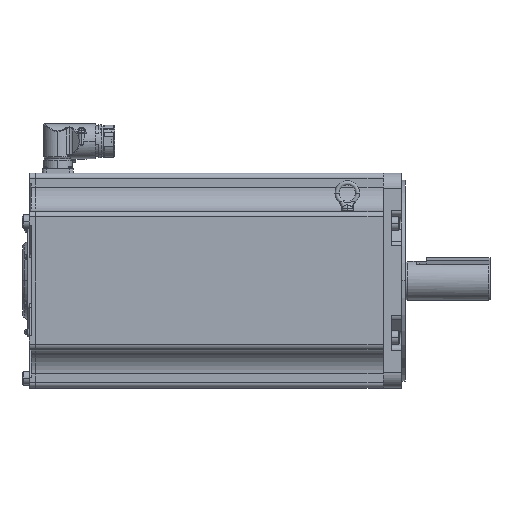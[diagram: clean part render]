
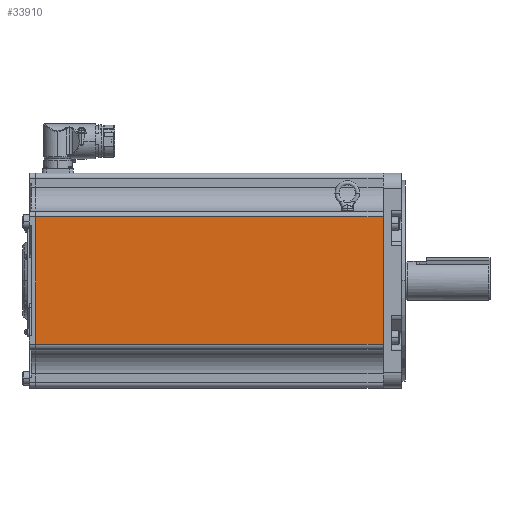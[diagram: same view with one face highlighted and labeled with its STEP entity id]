
A CAD part, top view. The second image highlights one B-rep face of the part: STEP entity #33910.
In plain terms, the highlighted planar face has unit normal (0, 0, 1) as drawn and (0, 0, -1) by its records, which use the part's own axes.
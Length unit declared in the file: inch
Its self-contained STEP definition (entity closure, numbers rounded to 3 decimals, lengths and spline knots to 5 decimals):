
#2699 = EDGE_CURVE ( 'NONE', #31902, #13747, #31284, .T. ) ;
#3012 = VECTOR ( 'NONE', #23709, 39.37008 ) ;
#3459 = CARTESIAN_POINT ( 'NONE',  ( -0.9, -3.125, -5.25 ) ) ;
#3982 = CARTESIAN_POINT ( 'NONE',  ( -0.9, 3.375, -5.25 ) ) ;
#5278 = FACE_OUTER_BOUND ( 'NONE', #21148, .T. ) ;
#6629 = VECTOR ( 'NONE', #35029, 39.37008 ) ;
#6835 = LINE ( 'NONE', #31119, #35988 ) ;
#7360 = AXIS2_PLACEMENT_3D ( 'NONE', #36528, #16867, #36641 ) ;
#7621 = DIRECTION ( 'NONE',  ( 1., 0., 0. ) ) ;
#8657 = VECTOR ( 'NONE', #7621, 39.37008 ) ;
#9104 = ORIENTED_EDGE ( 'NONE', *, *, #10045, .T. ) ;
#9294 = CARTESIAN_POINT ( 'NONE',  ( -17.89, 3.125, -5.25 ) ) ;
#10045 = EDGE_CURVE ( 'NONE', #15864, #31902, #16166, .T. ) ;
#11392 = ORIENTED_EDGE ( 'NONE', *, *, #34449, .T. ) ;
#13747 = VERTEX_POINT ( 'NONE', #3459 ) ;
#14081 = LINE ( 'NONE', #29309, #6629 ) ;
#14202 = DIRECTION ( 'NONE',  ( -1., 0., 0. ) ) ;
#14936 = EDGE_CURVE ( 'NONE', #15864, #19777, #14081, .T. ) ;
#15864 = VERTEX_POINT ( 'NONE', #9294 ) ;
#16166 = LINE ( 'NONE', #21657, #8657 ) ;
#16867 = DIRECTION ( 'NONE',  ( 0., 0., 1. ) ) ;
#19777 = VERTEX_POINT ( 'NONE', #31840 ) ;
#21148 = EDGE_LOOP ( 'NONE', ( #21544, #11392, #32706, #9104 ) ) ;
#21544 = ORIENTED_EDGE ( 'NONE', *, *, #2699, .T. ) ;
#21657 = CARTESIAN_POINT ( 'NONE',  ( -17.89, 3.125, -5.25 ) ) ;
#22310 = CARTESIAN_POINT ( 'NONE',  ( -0.9, 3.125, -5.25 ) ) ;
#23709 = DIRECTION ( 'NONE',  ( 0., -1., 0. ) ) ;
#29309 = CARTESIAN_POINT ( 'NONE',  ( -17.89, 3.375, -5.25 ) ) ;
#31119 = CARTESIAN_POINT ( 'NONE',  ( -17.89, -3.125, -5.25 ) ) ;
#31284 = LINE ( 'NONE', #3982, #3012 ) ;
#31840 = CARTESIAN_POINT ( 'NONE',  ( -17.89, -3.125, -5.25 ) ) ;
#31902 = VERTEX_POINT ( 'NONE', #22310 ) ;
#32706 = ORIENTED_EDGE ( 'NONE', *, *, #14936, .F. ) ;
#33773 = PLANE ( 'NONE',  #7360 ) ;
#33910 = ADVANCED_FACE ( 'NONE', ( #5278 ), #33773, .F. ) ;
#34449 = EDGE_CURVE ( 'NONE', #13747, #19777, #6835, .T. ) ;
#35029 = DIRECTION ( 'NONE',  ( 0., -1., 0. ) ) ;
#35988 = VECTOR ( 'NONE', #14202, 39.37008 ) ;
#36528 = CARTESIAN_POINT ( 'NONE',  ( -17.89, 3.375, -5.25 ) ) ;
#36641 = DIRECTION ( 'NONE',  ( 0., -1., 0. ) ) ;
